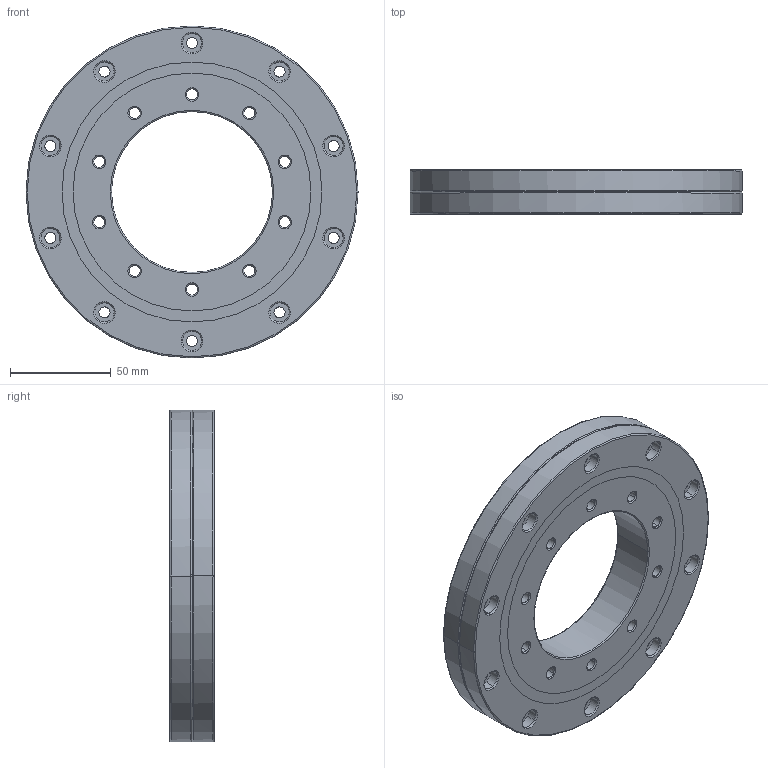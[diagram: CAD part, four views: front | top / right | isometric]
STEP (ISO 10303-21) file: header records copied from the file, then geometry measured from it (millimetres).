
FILE_DESCRIPTION(('no description'),'unknown implementation level');
FILE_NAME('CRBD08022C_44.stp',' ',('HIWIN GmbH'),('CADClick - KiM GmbH - www.kimweb.de'),'unknown preprocess','ACIS','unknown authorization');
FILE_SCHEMA(('automotive_design'));
Length unit declared in the file: millimetre
Products named in the file (5): CRBD08022C_1; CRBD08022C_2; CRBD08022C_3; CRBD08022C_4; CRBD08022C
Bounding box: 165 x 22 x 165 mm (x, y, z)
Volume: 301519.3 mm3; surface area: 95450.4 mm2
Topology: 5 solids, 5 shells, 414 faces, 1020 edges, 636 vertices
Faces by surface type: cone 240, cylinder 120, plane 30, torus 24
Entity records: 24296 total; most frequent: DIRECTION 2518, STYLED_ITEM 2075, PRESENTATION_STYLE_ASSIGNMENT 2075, CARTESIAN_POINT 2075, COLOUR_RGB 2075, ORIENTED_EDGE 2040, AXIS2_PLACEMENT_3D 1079, EDGE_CURVE 1020
